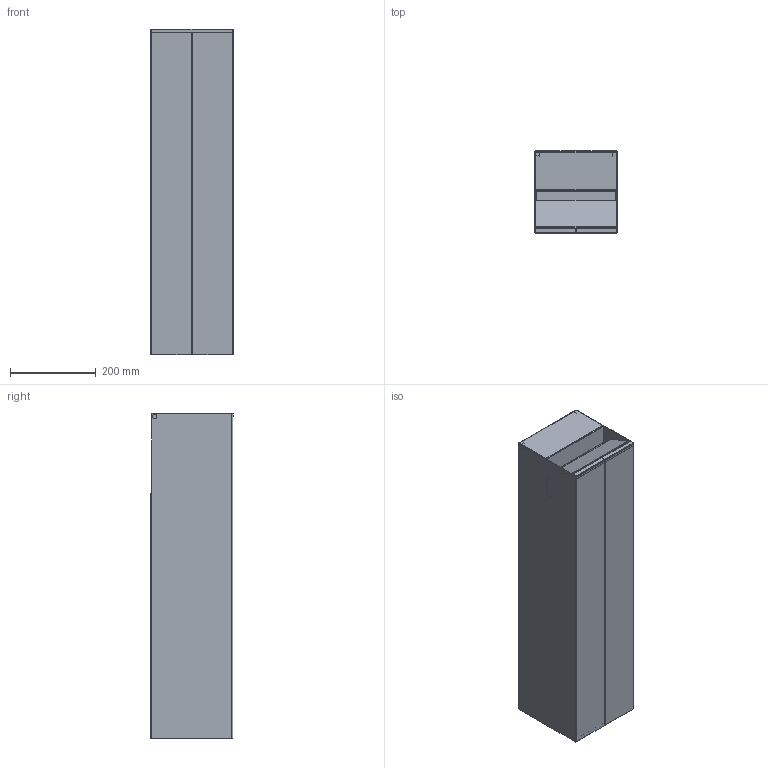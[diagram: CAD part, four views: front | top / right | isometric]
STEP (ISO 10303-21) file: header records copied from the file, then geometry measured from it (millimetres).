
FILE_DESCRIPTION(/* description */ (''),/* implementation_level */ '2;1');
FILE_NAME(/* name */ 'LEVANZO',/* time_stamp */ '2017-05-24T17:58:12+02:00',/* author */ (''),/* organization */ (''),/* preprocessor_version */ 'ST-DEVELOPER v10',/* originating_system */ '',/* authorisation */ '');
FILE_SCHEMA (('CONFIG_CONTROL_DESIGN'));
Length unit declared in the file: millimetre
Products named in the file (12): 1; 2; 3; 4; 5; 6; 7; 8; 9; 10; 11; 12
Assembly tree (13 placements, depth 3):
  1
    2
      3  x2
      4
      5
      6
      7
      8
      9
      10  x2
      11
      12
Bounding box: 196 x 193.84 x 761.04 mm (x, y, z)
Volume: 823666.3 mm3; surface area: 1612306.2 mm2
Topology: 12 solids, 12 shells, 304 faces, 642 edges, 364 vertices
Faces by surface type: plane 220, bspline 84
Entity records: 8129 total; most frequent: CARTESIAN_POINT 2730, ORIENTED_EDGE 1236, EDGE_CURVE 618, B_SPLINE_CURVE_WITH_KNOTS 462, VERTEX_POINT 348, EDGE_LOOP 308, ADVANCED_FACE 291, FACE_OUTER_BOUND 291
